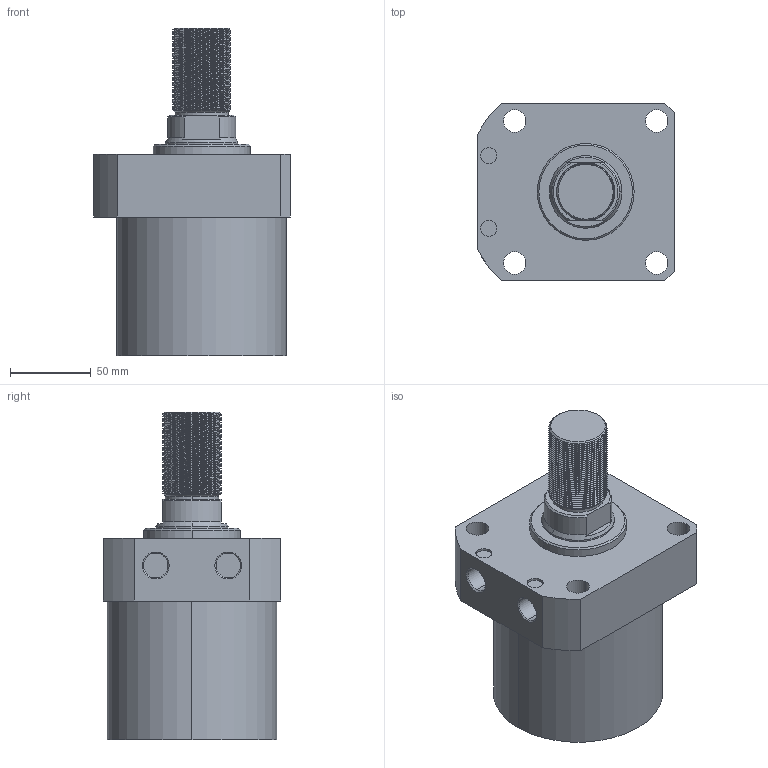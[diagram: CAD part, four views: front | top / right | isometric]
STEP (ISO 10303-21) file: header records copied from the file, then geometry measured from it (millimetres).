
FILE_DESCRIPTION (( 'STEP AP214' ), '1' );
FILE_NAME ('CLLR-105CT-065.STEP', '2020-01-09T08:02:36', ( 'Windows' ), ( 'Microsoft' ), 'SwSTEP 2.0', 'SolidWorks 2015', '' );
FILE_SCHEMA (( 'AUTOMOTIVE_DESIGN' ));
Length unit declared in the file: millimetre
Products named in the file (1): CLLR-105CT-065
Bounding box: 122 x 110 x 203 mm (x, y, z)
Volume: 1317513.2 mm3; surface area: 92767.5 mm2
Topology: 1 solids, 1 shells, 135 faces, 362 edges, 237 vertices
Faces by surface type: cylinder 97, plane 20, cone 16, bspline 2
Entity records: 7913 total; most frequent: CARTESIAN_POINT 4854, ORIENTED_EDGE 724, DIRECTION 556, EDGE_CURVE 362, VERTEX_POINT 237, AXIS2_PLACEMENT_3D 211, EDGE_LOOP 151, FACE_OUTER_BOUND 135
